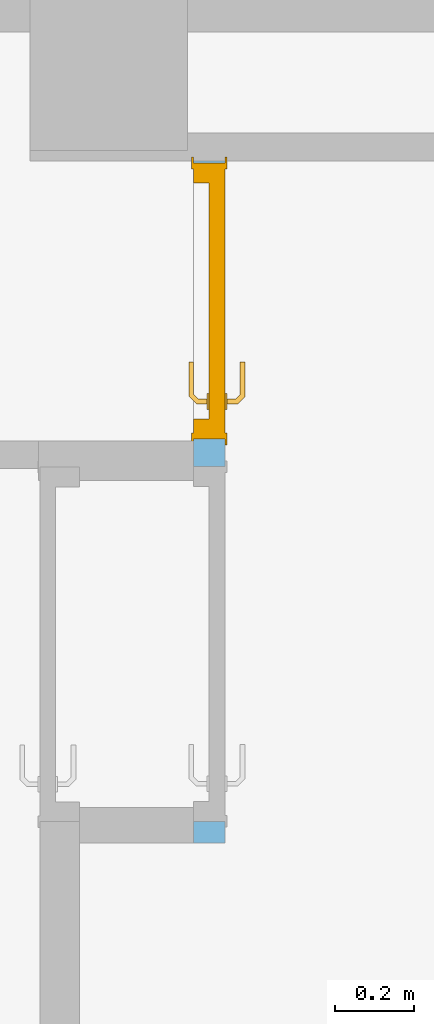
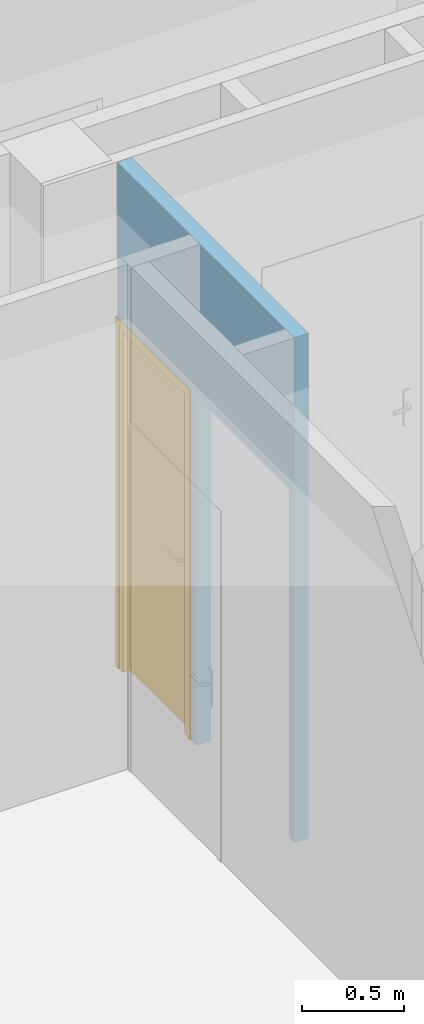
# One storey, part 59 of 97: 1 door, 2 openings, plus 1 element that does not belong to this part.
"""IFC4 building model written with IfcOpenShell, lengths in metres."""

from ifc_helpers import new_model, entity, si_unit, converted_unit, derived_unit, direction, frame, origin, place, context, subcontext, project, spatial, indexed_curve, outline, extrude, polygons, source, transform, mapped, material, material_list, layer, layer_set, constituent, constituent_set, type_object, type_shapes, element, fill, save


model = new_model("IFC4")

# Units and contexts
model_context = context("Model", 3, precision=1e-05, world=origin(), true_north=direction((6.12303176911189e-17, 1.0)))
body_context = subcontext(model_context, "Body", "Model", "MODEL_VIEW")
ifc_project = project(units=[si_unit("LENGTHUNIT", "METRE"), si_unit("AREAUNIT", "SQUARE_METRE"), si_unit("VOLUMEUNIT", "CUBIC_METRE"), converted_unit("PLANEANGLEUNIT", "DEGREE", entity("IfcRatioMeasure", 0.0174532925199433), si_unit("PLANEANGLEUNIT", "RADIAN"), dimensions=[0, 0, 0, 0, 0, 0, 0]), si_unit("MASSUNIT", "GRAM", prefix="KILO"), derived_unit("MASSDENSITYUNIT", [(si_unit("MASSUNIT", "GRAM", prefix="KILO"), 1), (si_unit("LENGTHUNIT", "METRE"), -3)]), derived_unit("MOMENTOFINERTIAUNIT", [(si_unit("LENGTHUNIT", "METRE"), 4)]), si_unit("TIMEUNIT", "SECOND"), si_unit("FREQUENCYUNIT", "HERTZ"), si_unit("THERMODYNAMICTEMPERATUREUNIT", "DEGREE_CELSIUS"), derived_unit("THERMALTRANSMITTANCEUNIT", [(si_unit("MASSUNIT", "GRAM", prefix="KILO"), 1), (si_unit("THERMODYNAMICTEMPERATUREUNIT", "KELVIN"), -1), (si_unit("TIMEUNIT", "SECOND"), -3)]), derived_unit("VOLUMETRICFLOWRATEUNIT", [(si_unit("LENGTHUNIT", "METRE"), 3), (si_unit("TIMEUNIT", "SECOND"), -1)]), si_unit("ELECTRICCURRENTUNIT", "AMPERE"), si_unit("ELECTRICVOLTAGEUNIT", "VOLT"), si_unit("POWERUNIT", "WATT"), si_unit("FORCEUNIT", "NEWTON", prefix="KILO"), si_unit("ILLUMINANCEUNIT", "LUX"), si_unit("LUMINOUSFLUXUNIT", "LUMEN"), si_unit("LUMINOUSINTENSITYUNIT", "CANDELA"), derived_unit("USERDEFINED", [(si_unit("MASSUNIT", "GRAM", prefix="KILO"), -1), (si_unit("LENGTHUNIT", "METRE"), -2), (si_unit("TIMEUNIT", "SECOND"), 3), (si_unit("LUMINOUSFLUXUNIT", "LUMEN"), 1)]), derived_unit("LINEARVELOCITYUNIT", [(si_unit("LENGTHUNIT", "METRE"), 1), (si_unit("TIMEUNIT", "SECOND"), -1)]), si_unit("PRESSUREUNIT", "PASCAL"), derived_unit("USERDEFINED", [(si_unit("LENGTHUNIT", "METRE"), -2), (si_unit("MASSUNIT", "GRAM", prefix="KILO"), 1), (si_unit("TIMEUNIT", "SECOND"), -2)]), derived_unit("LINEARFORCEUNIT", [(si_unit("MASSUNIT", "GRAM", prefix="KILO"), 1), (si_unit("LENGTHUNIT", "METRE"), 1), (si_unit("TIMEUNIT", "SECOND"), -2), (si_unit("LENGTHUNIT", "METRE"), -1)]), derived_unit("PLANARFORCEUNIT", [(si_unit("MASSUNIT", "GRAM", prefix="KILO"), 1), (si_unit("LENGTHUNIT", "METRE"), 1), (si_unit("TIMEUNIT", "SECOND"), -2), (si_unit("LENGTHUNIT", "METRE"), -2)])], contexts=[model_context])

# Site, building, storey
site_placement = place(None, origin())
site = spatial("IfcSite", under=ifc_project, at=site_placement, Name="Default", CompositionType="ELEMENT")
building_placement = place(site_placement, origin())
building = spatial("IfcBuilding", under=site, at=building_placement, Name="HOTEL CONSULAIRE BOULOGNE SUR MER", CompositionType="ELEMENT")
storey_placement = place(building_placement, frame((0.0, 0.0, 3.62152697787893)))
storey = spatial("IfcBuildingStorey", under=building, at=storey_placement, Name="Niveau 1", CompositionType="ELEMENT", Elevation=3.62152697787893)

# Wall, openings, door
ifc_material_1 = material(Name="Mur par défaut", Category="Divers")
ifc_layer = layer(ifc_material_1, 0.08, Name="Mur par défaut", Category="Divers")
ifc_layer_set = layer_set([ifc_layer], Name="Mur de base:Générique - Int. 80")
wall_type = type_object("IfcWallType", Name="Mur de base:Générique - Int. 80", PredefinedType="NOTDEFINED", material=ifc_layer_set)
wall_placement = place(storey_placement, frame((-5.07777317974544, -25.9733034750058, 0.0), z_axis=(0.0, 0.0, 1.0), x_axis=(0.0, 1.0, 0.0)))
wall = element("IfcWall", 1, at=wall_placement, inside=storey, type_object=wall_type, material=ifc_layer_set, Name="Mur de base:Générique - Int. 80", ObjectType="Mur de base:Générique - Int. 80", PredefinedType="NOTDEFINED", context=body_context, shape_type="Tessellation", body=[
    polygons([(1.73126338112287, -0.0399999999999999, 0.0), (1.72545969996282, -0.0399999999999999, 0.0), (1.72545969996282, 0.0399999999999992, 0.0), (1.73126338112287, 0.0399999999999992, 0.0), (1.02545969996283, -0.0400000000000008, 0.0), (0.954828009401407, -0.0400000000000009, 0.0), (0.954828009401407, 0.0399999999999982, 0.0), (1.01965601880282, 0.0399999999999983, 0.0), (1.02545969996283, 0.0399999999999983, 0.0), (1.73126338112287, -0.040000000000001, 3.01021454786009), (0.0, -0.0400000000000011, 3.01021454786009), (0.0, -0.0400000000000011, 0.0), (0.0548280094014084, -0.040000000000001, 0.0), (0.0548280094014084, -0.040000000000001, 2.075), (0.954828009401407, -0.0400000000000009, 2.075), (1.02545969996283, -0.0400000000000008, 2.07500000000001), (1.72545969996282, -0.040000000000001, 2.07500000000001), (0.0, 0.0399999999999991, 3.01021454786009), (0.0900000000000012, 0.0399999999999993, 3.01021454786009), (0.919656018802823, 0.0399999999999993, 3.01021454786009), (1.01965601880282, 0.0399999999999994, 3.01021454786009), (1.73126338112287, 0.0399999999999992, 3.01021454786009), (1.72545969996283, 0.0399999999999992, 2.07500000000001), (1.02545969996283, 0.0399999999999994, 2.07500000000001), (0.954828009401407, 0.0399999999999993, 2.075), (0.0548280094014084, 0.0399999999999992, 2.075), (0.0548280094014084, 0.0399999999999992, 0.0), (0.0, 0.0399999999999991, 0.0)], [[[4, 1, 2, 3]], [[8, 9, 5, 6, 7]], [[26, 25, 15, 14]], [[24, 23, 17, 16]], [[27, 13, 12, 28]], [[12, 13, 14, 15, 6, 5, 16, 17, 2, 1, 10, 11]], [[4, 3, 23, 24, 9, 8, 7, 25, 26, 27, 28, 18, 19, 20, 21, 22]], [[11, 10, 22, 21, 20, 19, 18]], [[10, 1, 4, 22]], [[27, 26, 14, 13]], [[9, 24, 16, 5]], [[18, 28, 12, 11]], [[25, 7, 6, 15]], [[23, 3, 2, 17]]], closed=True),
])
opening_1_placement = place(wall_placement, frame((0.954828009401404, 0.0399999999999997, 0.0)))
element("IfcOpeningElement", 2, at=opening_1_placement, cuts=wall, Name="Int. Simple:PP (0.83m x 2.04m):1", ObjectType="Opening", PredefinedType="OPENING", context=body_context, shape_type="SweptSolid", body=[
    extrude(outline(indexed_curve([(0.0, 1.08286712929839e-15), (2.075, 1.08286712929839e-15), (2.075, 0.9), (0.0, 0.9), (0.0, 1.08286712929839e-15)], self_intersect=False)), frame((0.0, 0.0, 0.0), z_axis=(0.0, -1.0, 0.0), x_axis=(0.0, 0.0, 1.0)), (0.0, 0.0, 1.0), 0.08),
])
opening_2_placement = place(wall_placement, frame((1.72545969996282, 0.0400000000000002, 0.0)))
opening_2 = element("IfcOpeningElement", 3, at=opening_2_placement, cuts=wall, Name="Int. Simple:PP (0.63m x 2.04m):1", ObjectType="Opening", PredefinedType="OPENING", context=body_context, shape_type="SweptSolid", body=[
    extrude(outline(indexed_curve([(0.0, 2.70716782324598e-15), (2.07500000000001, 2.70716782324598e-15), (2.07500000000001, 0.699999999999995), (0.0, 0.699999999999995), (0.0, 2.70716782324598e-15)], self_intersect=False)), frame((0.0, 0.0, 0.0), z_axis=(0.0, -1.0, 0.0), x_axis=(0.0, 0.0, 1.0)), (0.0, 0.0, 1.0), 0.08),
])
ifc_material_2 = material(Name="Finition Peinture - Blanc satiné", Category="Peinture")
ifc_constituent_1 = constituent(ifc_material_2, Name="Finition Peinture - Blanc satiné", Category="Matériaux")
ifc_material_3 = material(Name="Bois - Panneau de porte", Category="Bois")
ifc_constituent_2 = constituent(ifc_material_3, Name="Bois - Panneau de porte", Category="Matériaux")
ifc_material_4 = material(Name="Bois - Cadre de porte", Category="Bois")
ifc_constituent_3 = constituent(ifc_material_4, Name="Bois - Cadre de porte", Category="Matériaux")
ifc_constituent_set = constituent_set(constituents=[ifc_constituent_1, ifc_constituent_2, ifc_constituent_3], Name="MaterialConstituentSet")
ifc_material_list = material_list([ifc_material_3, ifc_material_4, ifc_material_4, ifc_material_2])
door_type = type_object("IfcDoorType", Name="Int. Simple:PP (0.63m x 2.04m)", OperationType="NOTDEFINED", PredefinedType="DOOR", material=ifc_material_list)
shared_shape = source(origin(), body_context, "Body", "Tessellation", [
    polygons([(0.0750000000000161, -0.00500000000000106, 0.870000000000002), (0.0846472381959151, -0.00500000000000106, 0.866003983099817), (0.0950000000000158, -0.00500000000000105, 0.86464101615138), (0.105352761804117, -0.00500000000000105, 0.866003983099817), (0.115000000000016, -0.00500000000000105, 0.870000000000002), (0.115000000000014, -0.00500000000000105, 1.08), (0.105352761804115, -0.00500000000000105, 1.08399601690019), (0.0950000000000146, -0.00500000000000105, 1.08535898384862), (0.0846472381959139, -0.00500000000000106, 1.08399601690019), (0.0750000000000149, -0.00500000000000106, 1.08), (0.0750000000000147, -1.06594733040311e-15, 0.870000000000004), (0.075000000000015, -1.06594733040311e-15, 1.08), (0.084647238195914, -1.06594733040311e-15, 1.08399601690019), (0.0950000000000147, -1.05748743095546e-15, 1.08535898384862), (0.105352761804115, -1.05748743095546e-15, 1.08399601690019), (0.115000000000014, -1.04902753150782e-15, 1.08), (0.115000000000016, -1.04902753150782e-15, 0.870000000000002), (0.105352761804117, -1.05748743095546e-15, 0.866003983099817), (0.0950000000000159, -1.05748743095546e-15, 0.86464101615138), (0.0846472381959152, -1.06594733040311e-15, 0.866003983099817)], [[[4, 5, 6, 7, 8, 9, 10, 1, 2, 3]], [[15, 16, 17, 18, 19, 20, 11, 12, 13, 14]], [[11, 20, 2, 1]], [[2, 20, 19, 3]], [[19, 18, 4, 3]], [[18, 17, 5, 4]], [[6, 5, 17, 16]], [[16, 15, 7, 6]], [[7, 15, 14, 8]], [[14, 13, 9, 8]], [[13, 12, 10, 9]], [[1, 10, 12, 11]]], closed=True),
    polygons([(0.115000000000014, 0.0399999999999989, 1.08), (0.105352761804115, 0.0399999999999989, 1.08399601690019), (0.0950000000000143, 0.0399999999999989, 1.08535898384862), (0.0846472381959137, 0.0399999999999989, 1.08399601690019), (0.0750000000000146, 0.0399999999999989, 1.08), (0.0750000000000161, 0.0399999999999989, 0.870000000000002), (0.0846472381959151, 0.0399999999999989, 0.866003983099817), (0.0950000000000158, 0.0399999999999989, 0.86464101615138), (0.105352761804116, 0.0399999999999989, 0.866003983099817), (0.115000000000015, 0.0399999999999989, 0.870000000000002), (0.115000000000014, 0.0449999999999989, 1.08), (0.115000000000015, 0.0449999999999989, 0.870000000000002), (0.105352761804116, 0.0449999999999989, 0.866003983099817), (0.0950000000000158, 0.0449999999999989, 0.86464101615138), (0.0846472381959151, 0.0449999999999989, 0.866003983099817), (0.0750000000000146, 0.0449999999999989, 0.870000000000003), (0.0750000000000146, 0.0449999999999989, 1.08), (0.0846472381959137, 0.0449999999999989, 1.08399601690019), (0.0950000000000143, 0.0449999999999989, 1.08535898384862), (0.105352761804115, 0.0449999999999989, 1.08399601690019)], [[[9, 10, 1, 2, 3, 4, 5, 6, 7, 8]], [[20, 11, 12, 13, 14, 15, 16, 17, 18, 19]], [[11, 20, 2, 1]], [[2, 20, 19, 3]], [[19, 18, 4, 3]], [[18, 17, 5, 4]], [[6, 5, 17, 16]], [[16, 15, 7, 6]], [[7, 15, 14, 8]], [[14, 13, 9, 8]], [[13, 12, 10, 9]], [[1, 10, 12, 11]]], closed=True),
    polygons([(0.0889999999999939, -0.00500000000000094, 1.007), (0.0929747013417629, -0.00500000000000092, 1.00778044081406), (0.0970252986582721, -0.0050000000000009, 1.00778044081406), (0.101000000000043, -0.00500000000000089, 1.00699999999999), (0.101000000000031, -0.00500000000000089, 0.993000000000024), (0.097025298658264, -0.0050000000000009, 0.992219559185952), (0.0929747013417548, -0.00500000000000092, 0.99221955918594), (0.088999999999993, -0.00500000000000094, 0.992999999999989), (0.0889999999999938, -0.0326509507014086, 1.007), (0.0929747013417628, -0.0310045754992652, 1.00778044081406), (0.097025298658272, -0.0293267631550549, 1.00778044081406), (0.101000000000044, -0.0276803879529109, 1.007), (0.101000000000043, -0.0276803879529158, 0.993000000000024), (0.097025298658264, -0.0293267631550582, 0.992219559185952), (0.0929747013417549, -0.0310045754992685, 0.99221955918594), (0.0889999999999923, -0.0326509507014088, 0.992999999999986), (0.107377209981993, -0.0510281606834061, 1.007), (0.109023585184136, -0.0470534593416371, 1.00778044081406), (0.110701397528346, -0.0430028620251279, 1.00778044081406), (0.112347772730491, -0.0390281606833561, 1.007), (0.112347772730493, -0.0390281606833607, 0.993000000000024), (0.110701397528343, -0.0430028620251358, 0.992219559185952), (0.109023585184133, -0.047053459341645, 0.99221955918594), (0.107377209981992, -0.0510281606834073, 0.992999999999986), (0.195018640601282, -0.0510281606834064, 1.00699999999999), (0.195018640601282, -0.0510281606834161, 0.992999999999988), (0.195018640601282, -0.0470534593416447, 0.99221955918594), (0.195018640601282, -0.0430028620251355, 0.992219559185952), (0.195018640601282, -0.039028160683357, 0.993000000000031), (0.195018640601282, -0.0390281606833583, 1.007), (0.195018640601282, -0.0430028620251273, 1.00778044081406), (0.195018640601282, -0.0470534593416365, 1.00778044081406), (0.147307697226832, -0.0510281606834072, 1.007), (0.152860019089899, -0.045028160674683, 1.0078786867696), (0.153683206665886, -0.039028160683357, 1.007), (0.147307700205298, -0.0510281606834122, 0.992999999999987), (0.152860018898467, -0.0450281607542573, 0.992121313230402), (0.153683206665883, -0.039028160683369, 0.993000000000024)], [[[2, 3, 4, 5, 6, 7, 8, 1]], [[21, 20, 35, 30, 29, 38]], [[9, 10, 2, 1]], [[10, 18, 19, 11, 3, 2]], [[11, 12, 4, 3]], [[5, 4, 12, 13]], [[26, 27, 28, 29, 30, 31, 32, 25]], [[13, 14, 6, 5]], [[14, 22, 23, 15, 7, 6]], [[15, 16, 8, 7]], [[1, 8, 16, 9]], [[17, 18, 10, 9]], [[19, 20, 12, 11]], [[13, 12, 20, 21]], [[21, 22, 14, 13]], [[23, 24, 16, 15]], [[9, 16, 24, 17]], [[33, 32, 34]], [[25, 32, 33]], [[18, 17, 33]], [[34, 35, 19]], [[20, 19, 35]], [[35, 31, 30]], [[32, 31, 34]], [[31, 35, 34]], [[18, 33, 34]], [[18, 34, 19]], [[38, 28, 37]], [[36, 37, 27]], [[21, 38, 22]], [[38, 29, 28]], [[26, 36, 27]], [[24, 23, 36]], [[36, 23, 37]], [[23, 22, 37]], [[22, 38, 37]], [[27, 37, 28]], [[17, 24, 36, 26, 25, 33]]], closed=True),
    polygons([(0.101000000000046, 0.0449999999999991, 0.993000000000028), (0.101000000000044, 0.0449999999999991, 1.007), (0.0970252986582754, 0.0449999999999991, 1.00778044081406), (0.0929747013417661, 0.0449999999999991, 1.00778044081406), (0.0889999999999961, 0.044999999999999, 1.007), (0.0889999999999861, 0.044999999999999, 0.992999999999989), (0.0929747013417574, 0.0449999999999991, 0.99221955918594), (0.0970252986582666, 0.0449999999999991, 0.992219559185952), (0.101000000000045, 0.067485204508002, 0.993000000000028), (0.101000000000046, 0.0674852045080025, 1.007), (0.0970252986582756, 0.0691315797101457, 1.00778044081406), (0.0929747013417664, 0.070809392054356, 1.00778044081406), (0.0889999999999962, 0.0724557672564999, 1.007), (0.0889999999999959, 0.072455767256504, 0.992999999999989), (0.0929747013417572, 0.0708093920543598, 0.99221955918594), (0.0970252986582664, 0.0691315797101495, 0.992219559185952), (0.112485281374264, 0.0789704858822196, 0.993000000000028), (0.112485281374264, 0.0789704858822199, 1.007), (0.11083890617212, 0.0829451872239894, 1.00778044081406), (0.10916109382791, 0.0869957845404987, 1.00778044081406), (0.107514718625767, 0.0909704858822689, 1.007), (0.107514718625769, 0.090970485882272, 0.992999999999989), (0.109161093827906, 0.0869957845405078, 0.99221955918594), (0.110838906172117, 0.0829451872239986, 0.992219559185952), (0.19504578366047, 0.0789704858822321, 0.993000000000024), (0.19504578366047, 0.0829451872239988, 0.992219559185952), (0.19504578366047, 0.086995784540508, 0.99221955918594), (0.19504578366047, 0.0909704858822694, 0.992999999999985), (0.19504578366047, 0.0909704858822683, 1.007), (0.19504578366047, 0.0869957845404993, 1.00778044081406), (0.19504578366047, 0.0829451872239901, 1.00778044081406), (0.19504578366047, 0.0789704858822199, 1.007), (0.147445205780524, 0.0909704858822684, 1.007), (0.15294234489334, 0.0849704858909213, 1.0078786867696), (0.153765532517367, 0.0789704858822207, 1.007), (0.147445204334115, 0.0909704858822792, 0.992999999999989), (0.152942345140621, 0.0849704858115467, 0.992121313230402), (0.153765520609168, 0.0789704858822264, 0.993000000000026)], [[[4, 5, 6, 7, 8, 1, 2, 3]], [[18, 17, 38, 25, 32, 35]], [[2, 1, 9, 10]], [[25, 26, 27, 28, 29, 30, 31, 32]], [[10, 11, 3, 2]], [[11, 19, 20, 12, 4, 3]], [[12, 13, 5, 4]], [[6, 5, 13, 14]], [[14, 15, 7, 6]], [[15, 23, 24, 16, 8, 7]], [[16, 9, 1, 8]], [[10, 9, 17, 18]], [[18, 19, 11, 10]], [[20, 21, 13, 12]], [[14, 13, 21, 22]], [[22, 23, 15, 14]], [[24, 17, 9, 16]], [[35, 31, 34]], [[33, 34, 30]], [[18, 35, 19]], [[35, 32, 31]], [[29, 33, 30]], [[21, 20, 33]], [[33, 20, 34]], [[20, 19, 34]], [[19, 35, 34]], [[30, 34, 31]], [[21, 33, 29, 28, 36, 22]], [[36, 27, 37]], [[28, 27, 36]], [[23, 22, 36]], [[37, 38, 24]], [[17, 24, 38]], [[38, 26, 25]], [[27, 26, 37]], [[26, 38, 37]], [[23, 36, 37]], [[23, 37, 24]]], closed=True),
    polygons([(0.0350000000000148, 0.04, 2.04), (0.665000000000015, 0.04, 2.04), (0.665000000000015, 0.04, 0.0), (0.0350000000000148, 0.04, 0.0), (0.0350000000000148, 3.38395977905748e-17, 2.04), (0.0350000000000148, 3.38395977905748e-17, 0.0), (0.665000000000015, 3.38395977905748e-17, 0.0), (0.665000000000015, 3.38395977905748e-17, 2.04)], [[[4, 1, 2, 3]], [[7, 8, 5, 6]], [[2, 1, 5, 8]], [[3, 2, 8, 7]], [[4, 3, 7, 6]], [[1, 4, 6, 5]]], closed=True),
    polygons([(-2.70716782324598e-16, -8.45989944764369e-18, 0.0), (-2.70716782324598e-16, 0.080000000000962, 0.0), (0.050000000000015, 0.080000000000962, 0.0), (0.050000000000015, 0.0400000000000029, 0.0), (0.0350000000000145, 0.0400000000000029, 0.0), (0.0350000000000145, -8.45989944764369e-18, 0.0), (-2.03037586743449e-16, -8.45989944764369e-18, 2.07500000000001), (-2.03037586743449e-16, 0.080000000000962, 2.07500000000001), (0.699999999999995, 0.080000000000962, 2.07500000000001), (0.699999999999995, 0.080000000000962, 1.16645647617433e-24), (0.64999999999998, 0.080000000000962, -1.79828591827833e-24), (0.64999999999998, 0.080000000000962, 2.025), (0.0500000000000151, 0.080000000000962, 2.02499999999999), (0.0500000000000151, 0.0400000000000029, 2.02499999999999), (0.64999999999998, 0.0400000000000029, 2.025), (0.64999999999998, 0.0400000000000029, 1.49408317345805e-25), (0.66499999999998, 0.0400000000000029, 1.4641916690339e-24), (0.66499999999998, 0.0400000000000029, 2.04), (0.0350000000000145, 0.0400000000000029, 2.04), (0.0350000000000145, -8.45989944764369e-18, 2.04), (0.66499999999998, -8.45989944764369e-18, 2.04), (0.66499999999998, -8.45989944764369e-18, 0.0), (0.699999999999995, -8.45989944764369e-18, 4.03399441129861e-24), (0.699999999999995, -8.45989944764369e-18, 2.07500000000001)], [[[5, 6, 1, 2, 3, 4]], [[11, 10, 23, 22, 17, 16]], [[14, 13, 12, 15]], [[20, 19, 18, 21]], [[2, 1, 7, 8]], [[15, 12, 11, 16]], [[21, 18, 17, 22]], [[3, 2, 8, 9, 10, 11, 12, 13]], [[4, 3, 13, 14]], [[6, 5, 19, 20]], [[9, 24, 23, 10]], [[16, 17, 18, 19, 5, 4, 14, 15]], [[22, 23, 24, 7, 1, 6, 20, 21]], [[8, 7, 24, 9]]], closed=True),
    polygons([(0.0149999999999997, 0.080000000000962, 0.0), (-0.0150000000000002, 0.080000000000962, 0.0), (-0.0150000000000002, 0.085000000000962, 0.0), (0.0149999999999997, 0.085000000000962, 0.0), (0.0149999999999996, 0.080000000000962, 2.06000000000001), (0.684999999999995, 0.080000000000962, 2.06000000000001), (0.684999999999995, 0.080000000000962, -5.40476895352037e-24), (0.714999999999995, 0.080000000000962, 1.09662010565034e-24), (0.714999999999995, 0.080000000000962, 2.09000000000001), (-0.0150000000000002, 0.080000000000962, 2.09000000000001), (-0.0150000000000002, 0.085000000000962, 2.09000000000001), (0.714999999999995, 0.085000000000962, 2.09000000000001), (0.714999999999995, 0.085000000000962, 9.94022571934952e-24), (0.684999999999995, 0.085000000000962, 3.01102000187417e-24), (0.684999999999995, 0.085000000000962, 2.06000000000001), (0.0149999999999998, 0.085000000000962, 2.06000000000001)], [[[1, 2, 3, 4]], [[14, 13, 8, 7]], [[5, 16, 15, 6]], [[7, 8, 9, 10, 2, 1, 5, 6]], [[3, 2, 10, 11]], [[6, 15, 14, 7]], [[4, 3, 11, 12, 13, 14, 15, 16]], [[1, 4, 16, 5]], [[12, 9, 8, 13]], [[11, 10, 9, 12]]], closed=True),
    polygons([(0.0149999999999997, -0.00499999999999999, 0.0), (-0.0150000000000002, -0.00499999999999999, 0.0), (-0.0150000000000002, -8.45989944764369e-18, 0.0), (0.0149999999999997, -8.45989944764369e-18, 0.0), (0.684999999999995, -0.00499999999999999, -5.41433564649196e-16), (0.684999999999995, -8.45989944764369e-18, -5.41433564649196e-16), (0.714999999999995, -8.45989944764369e-18, -5.41433564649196e-16), (0.714999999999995, -0.00499999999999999, -5.41433564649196e-16), (0.0149999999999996, -0.00499999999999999, 2.06000000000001), (0.684999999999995, -0.00499999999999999, 2.06000000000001), (0.714999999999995, -0.00499999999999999, 2.09000000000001), (-0.0150000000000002, -0.00499999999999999, 2.09000000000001), (-0.0150000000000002, -8.45989944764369e-18, 2.09000000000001), (0.714999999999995, -8.45989944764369e-18, 2.09000000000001), (0.684999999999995, -8.45989944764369e-18, 2.06000000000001), (0.0149999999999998, -8.45989944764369e-18, 2.06000000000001)], [[[1, 2, 3, 4]], [[6, 7, 8, 5]], [[9, 16, 15, 10]], [[5, 8, 11, 12, 2, 1, 9, 10]], [[3, 2, 12, 13]], [[10, 15, 6, 5]], [[4, 3, 13, 14, 7, 6, 15, 16]], [[1, 4, 16, 9]], [[14, 11, 8, 7]], [[13, 12, 11, 14]]], closed=True),
])
type_shapes(door_type, [shared_shape])
door_placement = place(opening_2_placement, frame((-0.699999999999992, -0.0800000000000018, 0.0)))
door = element("IfcDoor", 4, at=door_placement, inside=storey, type_object=door_type, material=ifc_constituent_set, Name="Int. Simple:PP (0.63m x 2.04m)", ObjectType="Int. Simple:PP (0.63m x 2.04m)", OperationType="NOTDEFINED", OverallHeight=2.07500000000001, OverallWidth=0.699999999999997, PredefinedType="DOOR", context=body_context, shape_type="MappedRepresentation", body=[
    mapped(shared_shape, transform((0.0, 0.0, 0.0), scale=1.0)),
])
fill(opening_2, door)

save(model, "model.ifc")
